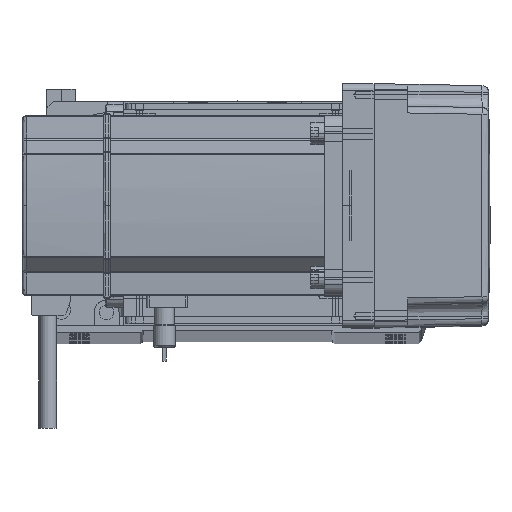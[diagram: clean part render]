
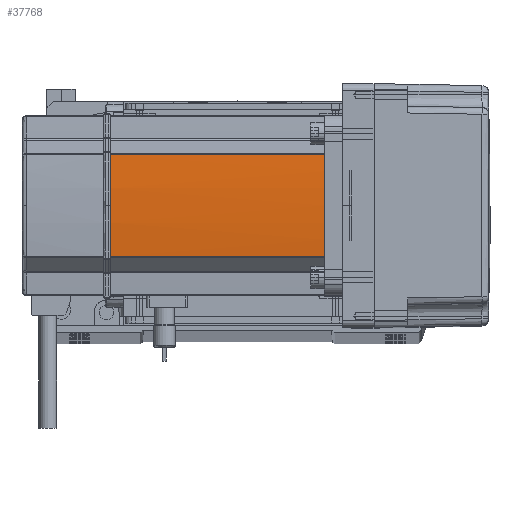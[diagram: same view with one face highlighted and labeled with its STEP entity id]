
A CAD part, top view. The second image highlights one B-rep face of the part: STEP entity #37768.
In plain terms, the highlighted cylindrical face has radius 270 mm (diameter 540 mm), a partial arc.
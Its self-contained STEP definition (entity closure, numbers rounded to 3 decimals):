
#1209 = ORIENTED_EDGE ( 'NONE', *, *, #55157, .T. ) ;
#2659 = CARTESIAN_POINT ( 'NONE',  ( -39.042, -22.724, 39. ) ) ;
#3677 = EDGE_CURVE ( 'NONE', #17621, #42707, #26782, .T. ) ;
#5310 = AXIS2_PLACEMENT_3D ( 'NONE', #44189, #54658, #29543 ) ;
#9047 = CARTESIAN_POINT ( 'NONE',  ( -39.042, -22.724, 0. ) ) ;
#11927 = VERTEX_POINT ( 'NONE', #52216 ) ;
#11995 = AXIS2_PLACEMENT_3D ( 'NONE', #39479, #49306, #48680 ) ;
#12506 = VERTEX_POINT ( 'NONE', #29025 ) ;
#14589 = CIRCLE ( 'NONE', #15421, 270. ) ;
#15421 = AXIS2_PLACEMENT_3D ( 'NONE', #51603, #31104, #46195 ) ;
#15939 = CARTESIAN_POINT ( 'NONE',  ( -40., 0., 134. ) ) ;
#17363 = CYLINDRICAL_SURFACE ( 'NONE', #5310, 270. ) ;
#17621 = VERTEX_POINT ( 'NONE', #2659 ) ;
#19825 = DIRECTION ( 'NONE',  ( 0., 0., -1. ) ) ;
#22481 = DIRECTION ( 'NONE',  ( 1., 0., 0. ) ) ;
#25092 = CARTESIAN_POINT ( 'NONE',  ( -39.042, 22.724, 39. ) ) ;
#26143 = ORIENTED_EDGE ( 'NONE', *, *, #60077, .T. ) ;
#26782 = CIRCLE ( 'NONE', #11995, 270. ) ;
#29025 = CARTESIAN_POINT ( 'NONE',  ( -39.042, 22.724, 134. ) ) ;
#29543 = DIRECTION ( 'NONE',  ( 1., 0., 0. ) ) ;
#30212 = ORIENTED_EDGE ( 'NONE', *, *, #3677, .F. ) ;
#31104 = DIRECTION ( 'NONE',  ( 0., 0., -1. ) ) ;
#35594 = ORIENTED_EDGE ( 'NONE', *, *, #37710, .T. ) ;
#36825 = LINE ( 'NONE', #54869, #60330 ) ;
#37631 = CARTESIAN_POINT ( 'NONE',  ( 230., 0., 134. ) ) ;
#37710 = EDGE_CURVE ( 'NONE', #17621, #11927, #45661, .T. ) ;
#37768 = ADVANCED_FACE ( 'NONE', ( #39373 ), #17363, .T. ) ;
#38570 = CIRCLE ( 'NONE', #56704, 270. ) ;
#39373 = FACE_OUTER_BOUND ( 'NONE', #50130, .T. ) ;
#39479 = CARTESIAN_POINT ( 'NONE',  ( 230., 0., 39. ) ) ;
#42707 = VERTEX_POINT ( 'NONE', #25092 ) ;
#43385 = VERTEX_POINT ( 'NONE', #15939 ) ;
#44189 = CARTESIAN_POINT ( 'NONE',  ( 230., 0., 0. ) ) ;
#45661 = LINE ( 'NONE', #9047, #52638 ) ;
#46195 = DIRECTION ( 'NONE',  ( 1., 0., 0. ) ) ;
#48138 = DIRECTION ( 'NONE',  ( 0., 0., -1. ) ) ;
#48680 = DIRECTION ( 'NONE',  ( 1., 0., 0. ) ) ;
#49306 = DIRECTION ( 'NONE',  ( 0., 0., -1. ) ) ;
#49611 = DIRECTION ( 'NONE',  ( 0., 0., 1. ) ) ;
#50130 = EDGE_LOOP ( 'NONE', ( #1209, #58220, #26143, #30212, #35594 ) ) ;
#51603 = CARTESIAN_POINT ( 'NONE',  ( 230., 0., 134. ) ) ;
#52216 = CARTESIAN_POINT ( 'NONE',  ( -39.042, -22.724, 134. ) ) ;
#52638 = VECTOR ( 'NONE', #49611, 1000. ) ;
#54658 = DIRECTION ( 'NONE',  ( 0., 0., 1. ) ) ;
#54869 = CARTESIAN_POINT ( 'NONE',  ( -39.042, 22.724, 0. ) ) ;
#55157 = EDGE_CURVE ( 'NONE', #11927, #43385, #14589, .T. ) ;
#56704 = AXIS2_PLACEMENT_3D ( 'NONE', #37631, #48138, #22481 ) ;
#58220 = ORIENTED_EDGE ( 'NONE', *, *, #58752, .T. ) ;
#58752 = EDGE_CURVE ( 'NONE', #43385, #12506, #38570, .T. ) ;
#60077 = EDGE_CURVE ( 'NONE', #12506, #42707, #36825, .T. ) ;
#60330 = VECTOR ( 'NONE', #19825, 1000. ) ;
